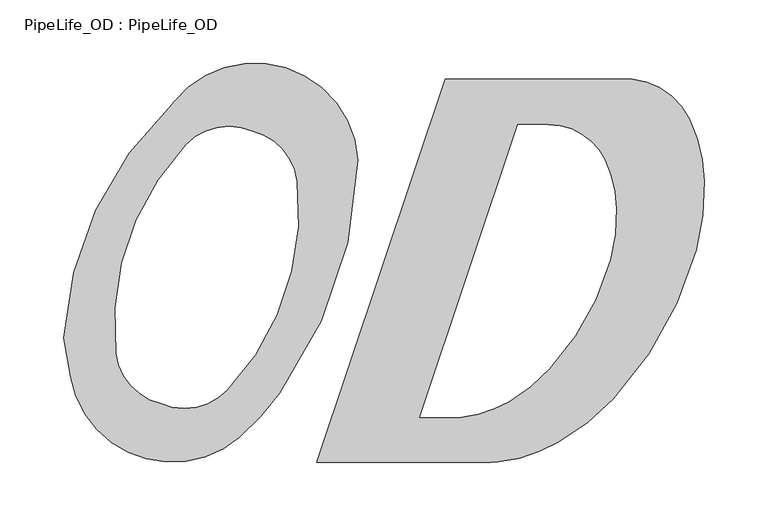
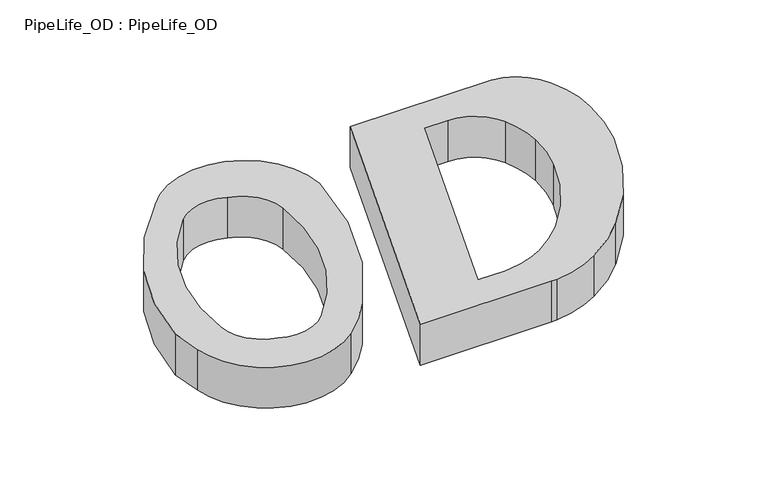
"""IFC4 building model written with IfcOpenShell, lengths in millimetres: flow terminal geometry, PipeLife_OD : PipeLife_OD."""

from ifc_helpers import new_model, si_unit, point, frame_2d, origin, origin_with_axes, place, context, project, spatial, polyline, circle_curve, trimmed, segment, composite_curve, outline, extrude, source, transform, mapped, element, save


def pipelife_od_pipelife_od_c3ca6225(model_context):
    return source(origin(), model_context, "Body", "SweptSolid", [
        extrude(outline(composite_curve([segment(polyline([(0.0, 0.0), (100.8961567, 301.5468262), (248.0926871, 301.5468262)]), True, "CONTINUOUS"), segment(trimmed(circle_curve(frame_2d((242.5012723, 245.9830817)), 55.8443697), [point((248.0926871, 301.5468262))], [point((292.7295959, 270.3902351))], False, "CARTESIAN"), True, "CONTINUOUS"), segment(trimmed(circle_curve(frame_2d((185.5257475, 218.2973005)), 119.1903475), [point((292.7295959, 270.3902351))], [point((304.6741286, 221.4599289))], False, "CARTESIAN"), True, "CONTINUOUS"), segment(trimmed(circle_curve(frame_2d((118.1559268, 216.5090622)), 186.5838972), [point((304.6741286, 221.4599289))], [point((298.0965814, 167.1642398))], False, "CARTESIAN"), True, "CONTINUOUS"), segment(trimmed(circle_curve(frame_2d((26.8462849, 241.5487513)), 281.2646066), [point((298.0965814, 167.1642398))], [point((232.8554654, 50.0546354))], False, "CARTESIAN"), True, "CONTINUOUS"), segment(trimmed(circle_curve(frame_2d((96.1941335, 177.0870369)), 186.5838972), [point((232.8554654, 50.0546354))], [point((190.1498531, 15.8856925))], False, "CARTESIAN"), True, "CONTINUOUS"), segment(trimmed(circle_curve(frame_2d((130.1306605, 118.8615899)), 119.1903475), [point((190.1498531, 15.8856925))], [point((142.2581298, 0.289825))], False, "CARTESIAN"), True, "CONTINUOUS"), segment(trimmed(circle_curve(frame_2d((136.5760363, 55.8443551)), 55.8443551), [point((142.2581298, 0.289825))], [point((136.5760363, 0.0))], False, "CARTESIAN"), True, "CONTINUOUS"), segment(polyline([(136.5760363, 0.0), (0.0, 0.0)]), True, "CONTINUOUS")], self_intersect=False), holes=[composite_curve([segment(trimmed(circle_curve(frame_2d((142.3045978, 197.3505966)), 93.2652872), [point((235.5370467, 199.8253225))], [point((226.1905683, 238.1128066))], True, "CARTESIAN"), True, "CONTINUOUS"), segment(trimmed(circle_curve(frame_2d((181.8768913, 216.5797255)), 49.2684031), [point((226.1905683, 238.1128066))], [point((181.8768913, 265.8481286))], True, "CARTESIAN"), True, "CONTINUOUS"), segment(polyline([(181.8768913, 265.8481286), (157.8847176, 265.8481286), (80.727888, 35.2506724), (108.3066239, 35.2506724)]), True, "CONTINUOUS"), segment(trimmed(circle_curve(frame_2d((108.3066239, 84.5190627)), 49.2683903), [point((108.3066239, 35.2506724))], [point((113.3196212, 35.5063691))], True, "CARTESIAN"), True, "CONTINUOUS"), segment(trimmed(circle_curve(frame_2d((103.8299945, 128.2876214)), 93.2652872), [point((113.3196212, 35.5063691))], [point((150.7944288, 47.7099836))], True, "CARTESIAN"), True, "CONTINUOUS"), segment(trimmed(circle_curve(frame_2d((80.259413, 168.7280485)), 140.073411), [point((150.7944288, 47.7099836))], [point((182.8546487, 73.3615026))], True, "CARTESIAN"), True, "CONTINUOUS"), segment(trimmed(circle_curve(frame_2d((32.0939328, 213.499869)), 205.8338048), [point((182.8546487, 73.3615026))], [point((230.5991101, 159.0641289))], True, "CARTESIAN"), True, "CONTINUOUS"), segment(trimmed(circle_curve(frame_2d((95.512955, 196.1085774)), 140.073411), [point((230.5991101, 159.0641289))], [point((235.5370467, 199.8253225))], True, "CARTESIAN"), True, "CONTINUOUS")], self_intersect=False)]), origin_with_axes(), (0.0, 0.0, 1.0), 45.0),
        extrude(outline(composite_curve([segment(trimmed(circle_curve(frame_2d((-46.9348038, 237.0657506)), 80.2528019), [point((-113.2051339, 282.3289318))], [point((-112.5216274, 283.3137862))], False, "CARTESIAN"), True, "CONTINUOUS"), segment(trimmed(circle_curve(frame_2d((-48.7960008, 233.0245542)), 81.1785831), [point((-112.5216274, 283.3137862))], [point((32.2443186, 237.7604796))], False, "CARTESIAN"), True, "CONTINUOUS"), segment(trimmed(circle_curve(frame_2d((-298.699669, 246.6163385)), 331.0624551), [point((32.2443186, 237.7604796))], [point((-29.0664597, 54.5218784))], False, "CARTESIAN"), True, "CONTINUOUS"), segment(trimmed(circle_curve(frame_2d((-186.1513618, 166.4336846)), 192.8728048), [point((-29.0664597, 54.5218784))], [point((-61.1902584, 19.5165601))], False, "CARTESIAN"), True, "CONTINUOUS"), segment(trimmed(circle_curve(frame_2d((-113.7853629, 81.3527739)), 81.1785831), [point((-61.1902584, 19.5165601))], [point((-193.6794245, 66.9687112))], False, "CARTESIAN"), True, "CONTINUOUS"), segment(polyline([(-193.6794245, 66.9687112), (-199.2184033, 97.734116)]), True, "CONTINUOUS"), segment(trimmed(circle_curve(frame_2d((74.7980945, 82.3908326)), 274.4457276), [point((-199.2184033, 97.734116))], [point((-113.2051339, 282.3289318))], False, "CARTESIAN"), True, "CONTINUOUS")], self_intersect=False), holes=[composite_curve([segment(trimmed(circle_curve(frame_2d((-111.7996754, 91.0516697)), 46.1785831), [point((-157.6746169, 85.7647729))], [point((-122.6379135, 46.1629837))], True, "CARTESIAN"), True, "CONTINUOUS"), segment(trimmed(circle_curve(frame_2d((-104.2790297, 88.5352969)), 46.1785831), [point((-122.6379135, 46.1629837))], [point((-70.8234063, 56.7047644))], True, "CARTESIAN"), True, "CONTINUOUS"), segment(trimmed(circle_curve(frame_2d((-218.9409709, 197.6275893)), 204.4457276), [point((-70.8234063, 56.7047644))], [point((-15.839551, 221.0341859))], True, "CARTESIAN"), True, "CONTINUOUS"), segment(trimmed(circle_curve(frame_2d((-61.7144925, 215.7472891)), 46.1785831), [point((-15.839551, 221.0341859))], [point((-50.8762544, 260.6359751))], True, "CARTESIAN"), True, "CONTINUOUS"), segment(trimmed(circle_curve(frame_2d((-69.2351382, 218.2636619)), 46.1785831), [point((-50.8762544, 260.6359751))], [point((-102.6907616, 250.0941944))], True, "CARTESIAN"), True, "CONTINUOUS"), segment(trimmed(circle_curve(frame_2d((45.426803, 109.1713695)), 204.4457276), [point((-102.6907616, 250.0941944))], [point((-157.6746169, 85.7647729))], True, "CARTESIAN"), True, "CONTINUOUS")], self_intersect=False)]), origin_with_axes(), (0.0, 0.0, 1.0), 45.0),
    ])


if __name__ == "__main__":
    model = new_model("IFC4")
    model_context = context("Model", 3, world=origin())
    ifc_project = project(units=[si_unit("LENGTHUNIT", "METRE", prefix="MILLI")], contexts=[model_context])
    site = spatial("IfcSite", under=ifc_project)
    building = spatial("IfcBuilding", under=site)
    placement = place(None, origin())
    pipelife_od_pipelife_od_shape = pipelife_od_pipelife_od_c3ca6225(model_context)
    element("IfcFlowTerminal", 1, ObjectType="PipeLife_OD : PipeLife_OD", at=placement, inside=building, context=model_context, shape_type="MappedRepresentation", body=[
        mapped(pipelife_od_pipelife_od_shape, transform((0.0, 0.0, 0.0), x_axis=(1.0, 0.0, 0.0), y_axis=(0.0, 1.0, 0.0), z_axis=(0.0, 0.0, 1.0))),
    ])
    save(model, "model.ifc")
